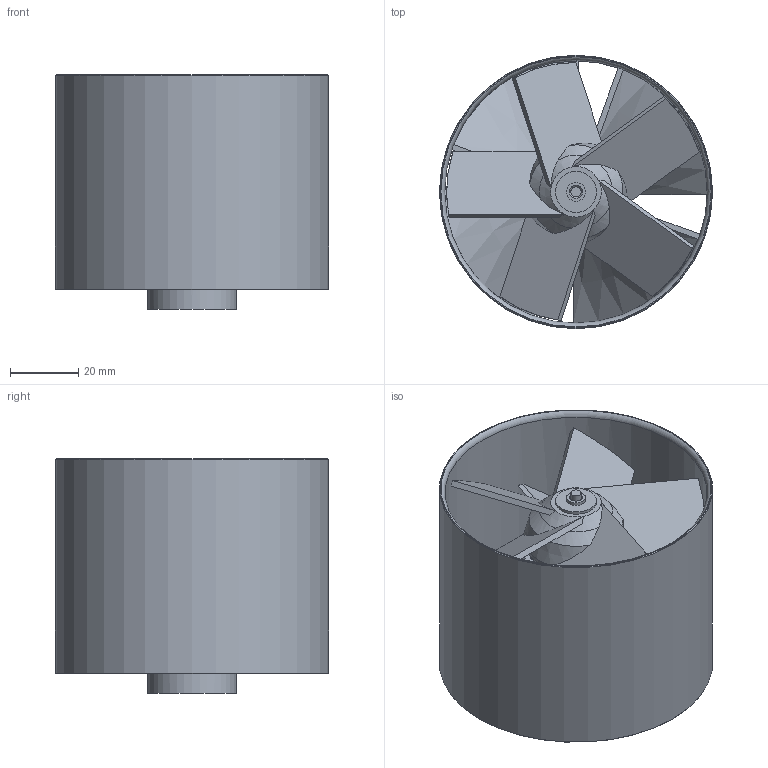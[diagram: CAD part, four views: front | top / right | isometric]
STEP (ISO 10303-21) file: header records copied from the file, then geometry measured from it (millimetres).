
FILE_DESCRIPTION(/* description */ (''),/* implementation_level */ '2;1');
FILE_NAME(/* name */ 'Fan D801P-012024KM-4.stp',/* time_stamp */ '2023-08-23T10:26:55+02:00',/* author */ (''),/* organization */ (''),/* preprocessor_version */ 'ST-DEVELOPER v16.7',/* originating_system */ 'SIEMENS PLM Software NX 1946',/* authorisation */ '');
FILE_SCHEMA (('AUTOMOTIVE_DESIGN { 1 0 10303 214 3 1 1 1 }'));
Length unit declared in the file: millimetre
Products named in the file (1): 020871_1-Fan D801P-012024KM-4 _-_
Bounding box: 80 x 80 x 68.7 mm (x, y, z)
Volume: 71396.8 mm3; surface area: 61899.8 mm2
Topology: 1 solids, 2 shells, 178 faces, 504 edges, 329 vertices
Faces by surface type: plane 67, cylinder 60, cone 27, bspline 22, torus 2
Full cylindrical faces by diameter (mm): 3 x2, 5.5 x1, 6.5 x1, 12 x1, 13 x1, 26 x1, 30.3 x1, 31 x1, 76.9 x1, 80 x1
Entity records: 6358 total; most frequent: CARTESIAN_POINT 1912, ORIENTED_EDGE 936, DIRECTION 910, EDGE_CURVE 468, AXIS2_PLACEMENT_3D 395, VERTEX_POINT 315, EDGE_LOOP 219, ADVANCED_FACE 177
